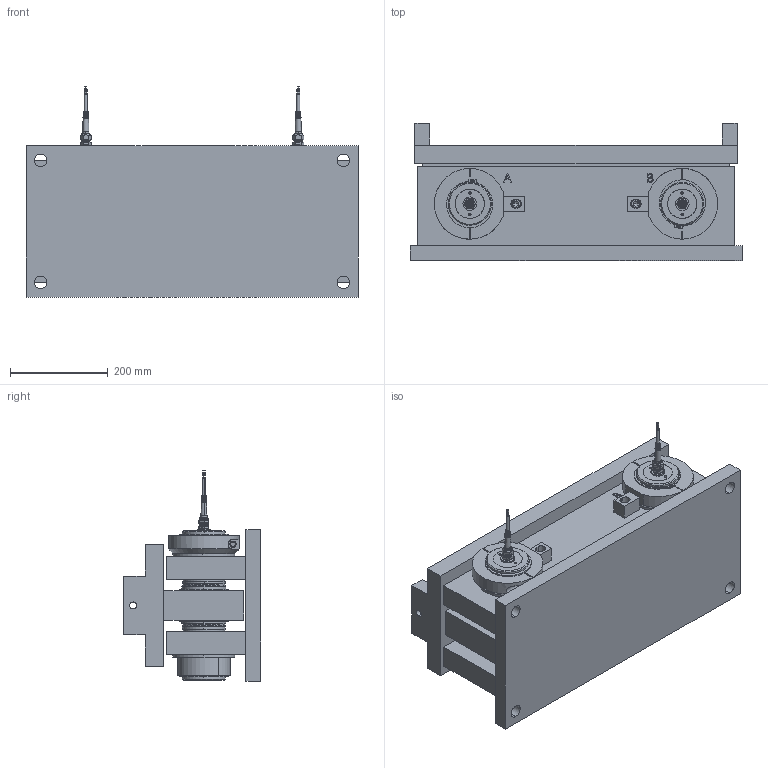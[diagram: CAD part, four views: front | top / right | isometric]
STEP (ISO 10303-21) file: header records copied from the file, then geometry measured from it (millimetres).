
FILE_DESCRIPTION (( 'STEP AP214' ), '1' );
FILE_NAME ('FMU-5 400 kN Module.STEP', '2021-06-17T09:04:37', ( '' ), ( '' ), 'SwSTEP 2.0', 'SolidWorks 2021', '' );
FILE_SCHEMA (( 'AUTOMOTIVE_DESIGN' ));
Length unit declared in the file: millimetre
Products named in the file (18): 600765-bushing; KISD 200 kN; Pg9 - 1009.52 6_2_14; 501305-top plate; Koenig-MB-600-140-monterad-colly_Koenig-MB-600-140-Colly; 501306-bottom plate; Hylsa 200 kN; 501307-rotation lock; Kabel; 4102484E; spring pin slotted_ld_iso_ISO 13337 - 8 x 16 - St; socket head cap screw_iso_ISO 4762 M12 x 20 - 20N; 600764-distance ring; FMU-5 400 kN Module; basic external retaining ring_am_B27.7M - 3AM1-88; basic external retaining ring_am_B27.7M - 3AM1-90; 700709 Silicone KISD 200kN; M26x1.5 - Pg9 - 6369829
Assembly tree (33 placements, depth 3):
  FMU-5 400 kN Module
    501306-bottom plate
    501305-top plate
    600765-bushing  x4
    KISD 200 kN  x2
      4102484E
      Hylsa 200 kN
      M26x1.5 - Pg9 - 6369829
      Pg9 - 1009.52 6_2_14
      Kabel
      Koenig-MB-600-140-monterad-colly_Koenig-MB-600-140-Colly
      spring pin slotted_ld_iso_ISO 13337 - 8 x 16 - St
      700709 Silicone KISD 200kN
    501307-rotation lock  x2
    600764-distance ring  x2
    basic external retaining ring_am_B27.7M - 3AM1-88  x4
    basic external retaining ring_am_B27.7M - 3AM1-90  x4
    socket head cap screw_iso_ISO 4762 M12 x 20 - 20N  x2
Bounding box: 680 x 281 x 430.5 mm (x, y, z)
Volume: 31953507 mm3; surface area: 2444016.6 mm2
Topology: 42 solids, 48 shells, 1209 faces, 2853 edges, 1814 vertices
Faces by surface type: cylinder 510, plane 388, cone 214, torus 52, bspline 41, sphere 4
Entity records: 22942 total; most frequent: CARTESIAN_POINT 8086, DIRECTION 2856, ORIENTED_EDGE 2628, EDGE_CURVE 1314, AXIS2_PLACEMENT_3D 1129, VERTEX_POINT 842, EDGE_LOOP 676, LINE 598
